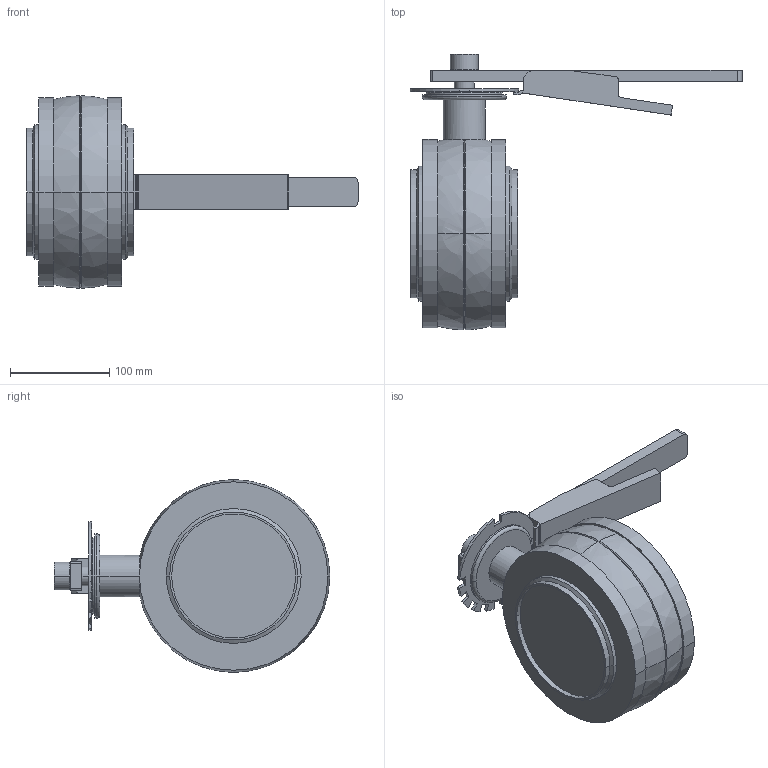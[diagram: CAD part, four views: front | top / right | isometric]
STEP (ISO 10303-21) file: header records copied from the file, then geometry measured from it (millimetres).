
FILE_DESCRIPTION(('OneSpaceDesigner STEP Export'),'2;1');
FILE_NAME('SVS1F-125-H-12S.stp','2007-06-01T10:10:05',(''),(''),'OneSpace Designer STEP processor for AP214 (Solid Model)','OneSpace Modeling 15.00 06-Feb-2007 (C) CoCreate Software GmbH','');
FILE_SCHEMA(('AUTOMOTIVE_DESIGN { 1 0 10303 214 1 1 1 1 }'));
Length unit declared in the file: millimetre
Products named in the file (3): SVS1F-125-H-12S; SVS1F-125-H-12S-vereint; SVS1F-125-H-12S.stp
Assembly tree (2 placements, depth 3):
  SVS1F-125-H-12S.stp
    SVS1F-125-H-12S-vereint
      SVS1F-125-H-12S
Bounding box: 334.76 x 277.99 x 193.99 mm (x, y, z)
Volume: 2944445.9 mm3; surface area: 188335.8 mm2
Topology: 1 solids, 1 shells, 134 faces, 341 edges, 221 vertices
Faces by surface type: plane 62, cylinder 50, cone 12, sphere 8, torus 2
Entity records: 3776 total; most frequent: CARTESIAN_POINT 705, ORIENTED_EDGE 682, DIRECTION 572, EDGE_CURVE 341, VERTEX_POINT 221, AXIS2_PLACEMENT_3D 192, VECTOR 188, LINE 188
